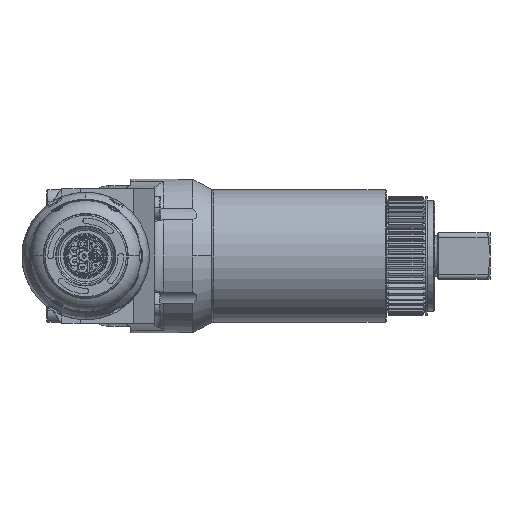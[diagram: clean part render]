
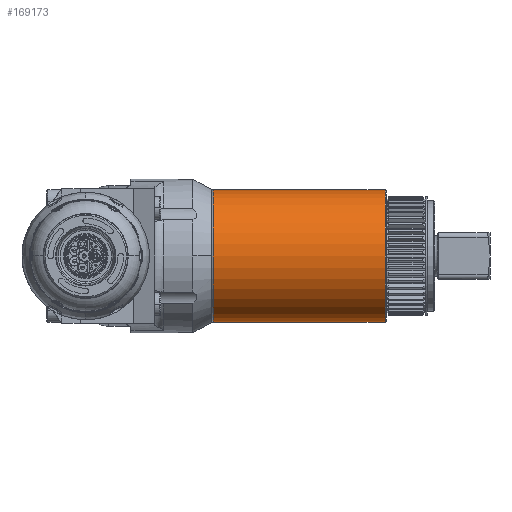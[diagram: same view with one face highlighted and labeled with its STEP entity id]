
A CAD part, left-side view. The second image highlights one B-rep face of the part: STEP entity #169173.
In plain terms, the highlighted cylindrical face has radius 36 mm (diameter 72 mm), a partial arc.
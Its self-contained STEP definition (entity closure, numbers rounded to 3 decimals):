
#168253=DIRECTION('',(0.,-1.,0.));
#168254=VECTOR('',#168253,93.1);
#168255=CARTESIAN_POINT('',(225.7,-69.,-36.));
#168256=LINE('',#168255,#168254);
#168257=DIRECTION('',(0.,-1.,0.));
#168258=VECTOR('',#168257,93.1);
#168259=CARTESIAN_POINT('',(225.7,-69.,36.));
#168260=LINE('',#168259,#168258);
#168271=CARTESIAN_POINT('',(225.7,-69.,0.));
#168272=DIRECTION('',(0.,1.,0.));
#168273=DIRECTION('',(0.,0.,-1.));
#168274=AXIS2_PLACEMENT_3D('',#168271,#168272,#168273);
#168291=CARTESIAN_POINT('',(225.7,-162.1,0.));
#168292=DIRECTION('',(0.,-1.,0.));
#168293=DIRECTION('',(0.,0.,1.));
#168294=AXIS2_PLACEMENT_3D('',#168291,#168292,#168293);
#168673=CARTESIAN_POINT('',(225.7,-162.1,-36.));
#168675=VERTEX_POINT('',#168673);
#168677=CARTESIAN_POINT('',(225.7,-162.1,36.));
#168679=VERTEX_POINT('',#168677);
#168680=CARTESIAN_POINT('',(225.7,-69.,36.));
#168681=VERTEX_POINT('',#168680);
#168682=CARTESIAN_POINT('',(225.7,-69.,-36.));
#168683=VERTEX_POINT('',#168682);
#169161=CARTESIAN_POINT('',(225.7,-68.,0.));
#169162=DIRECTION('',(0.,-1.,0.));
#169163=DIRECTION('',(0.,0.,1.));
#169164=AXIS2_PLACEMENT_3D('',#169161,#169162,#169163);
#169165=CYLINDRICAL_SURFACE('',#169164,36.);
#169166=ORIENTED_EDGE('',*,*,#169152,.T.);
#169167=ORIENTED_EDGE('',*,*,#169127,.T.);
#169169=ORIENTED_EDGE('',*,*,#169168,.T.);
#169170=ORIENTED_EDGE('',*,*,#169124,.F.);
#169171=EDGE_LOOP('',(#169166,#169167,#169169,#169170));
#169172=FACE_OUTER_BOUND('',#169171,.F.);
#169173=ADVANCED_FACE('',(#169172),#169165,.T.);
#168275=CIRCLE('',#168274,36.);
#168295=CIRCLE('',#168294,36.);
#169124=EDGE_CURVE('',#168683,#168675,#168256,.T.);
#169127=EDGE_CURVE('',#168681,#168679,#168260,.T.);
#169152=EDGE_CURVE('',#168683,#168681,#168275,.T.);
#169168=EDGE_CURVE('',#168679,#168675,#168295,.T.);
